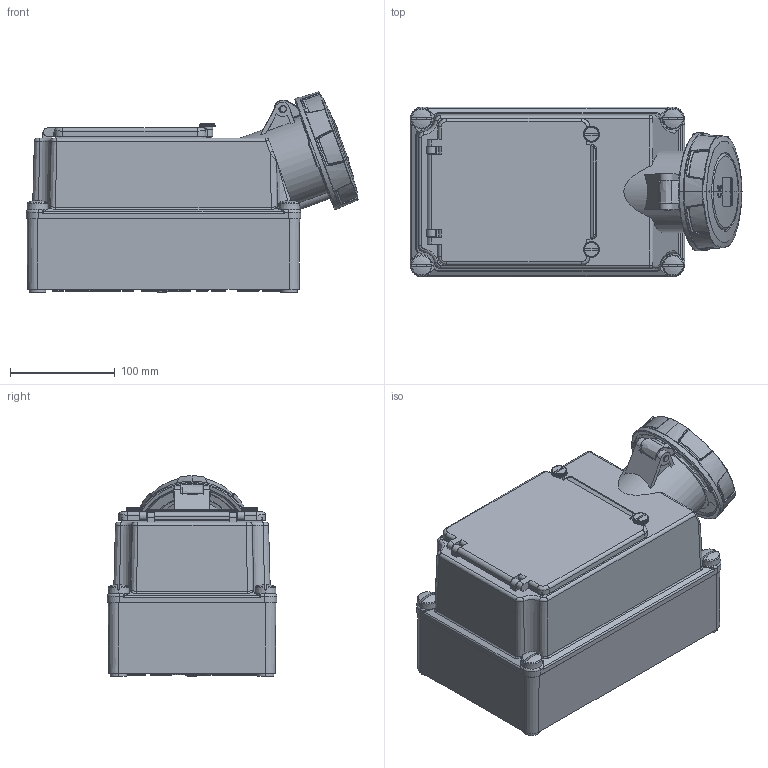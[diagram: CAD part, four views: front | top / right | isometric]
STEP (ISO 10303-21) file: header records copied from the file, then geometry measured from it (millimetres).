
FILE_DESCRIPTION((''),'2;1');
FILE_NAME('1113925_ASM_SW0001','2017-12-11T',('gisse'),('MENNEKES'),'PRO/ENGINEER BY PARAMETRIC TECHNOLOGY CORPORATION, 2015440','PRO/ENGINEER BY PARAMETRIC TECHNOLOGY CORPORATION, 2015440','');
FILE_SCHEMA(('AUTOMOTIVE_DESIGN { 1 0 10303 214 1 1 1 1 }'));
Products named in the file (1): 1113925_ASM_SW0001
Bounding box: 316.67 x 162 x 191.22 mm (x, y, z)
Volume: 6123561.4 mm3; surface area: 250879.7 mm2
Topology: 1 solids, 1 shells, 1944 faces, 5181 edges, 3306 vertices
Faces by surface type: plane 766, cone 265, cylinder 263, bspline 214, torus 210, extrusion 179, sphere 47
Entity records: 99793 total; most frequent: CARTESIAN_POINT 31985, ORIENTED_EDGE 10358, DIRECTION 8445, EDGE_CURVE 5179, FILL_AREA_STYLE_COLOUR 3468, FILL_AREA_STYLE 3468, SURFACE_STYLE_FILL_AREA 3468, SURFACE_SIDE_STYLE 3468
